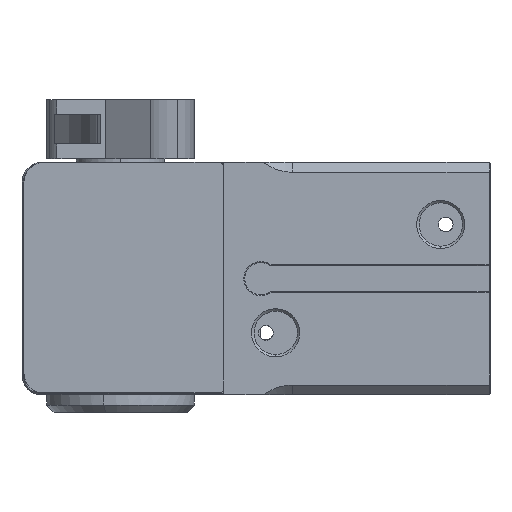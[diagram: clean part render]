
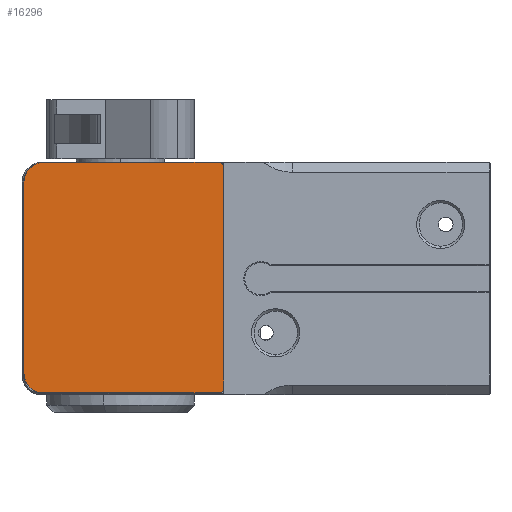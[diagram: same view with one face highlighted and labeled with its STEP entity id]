
A CAD part, left-side view. The second image highlights one B-rep face of the part: STEP entity #16296.
In plain terms, the highlighted planar face has unit normal (-1, 0, 0).
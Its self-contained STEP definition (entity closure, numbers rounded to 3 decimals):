
#70 = DIRECTION ( 'NONE',  ( 0., -1., 0. ) ) ;
#99 = VERTEX_POINT ( 'NONE', #6721 ) ;
#158 = DIRECTION ( 'NONE',  ( 0., 0., -1. ) ) ;
#190 = FACE_OUTER_BOUND ( 'NONE', #15492, .T. ) ;
#541 = CIRCLE ( 'NONE', #3525, 1. ) ;
#618 = ORIENTED_EDGE ( 'NONE', *, *, #4204, .T. ) ;
#679 = DIRECTION ( 'NONE',  ( -1., 0., 0. ) ) ;
#840 = CIRCLE ( 'NONE', #6783, 4. ) ;
#1332 = ORIENTED_EDGE ( 'NONE', *, *, #10070, .T. ) ;
#1487 = CARTESIAN_POINT ( 'NONE',  ( -32.5, 54., 1.4 ) ) ;
#1734 = LINE ( 'NONE', #13222, #4136 ) ;
#1948 = AXIS2_PLACEMENT_3D ( 'NONE', #12597, #8868, #3964 ) ;
#2111 = CARTESIAN_POINT ( 'NONE',  ( -32.5, 90.6, 4.4 ) ) ;
#2130 = CARTESIAN_POINT ( 'NONE',  ( -32.5, 90.6, 47.2 ) ) ;
#2860 = CARTESIAN_POINT ( 'NONE',  ( -32.5, 55., 46.2 ) ) ;
#2877 = ORIENTED_EDGE ( 'NONE', *, *, #8308, .T. ) ;
#3128 = DIRECTION ( 'NONE',  ( 0., 0., -1. ) ) ;
#3386 = ORIENTED_EDGE ( 'NONE', *, *, #4359, .T. ) ;
#3525 = AXIS2_PLACEMENT_3D ( 'NONE', #2860, #8028, #3962 ) ;
#3962 = DIRECTION ( 'NONE',  ( 0., 0., -1. ) ) ;
#3964 = DIRECTION ( 'NONE',  ( 0., 0., -1. ) ) ;
#4136 = VECTOR ( 'NONE', #6722, 1000. ) ;
#4204 = EDGE_CURVE ( 'NONE', #12247, #9737, #7083, .T. ) ;
#4278 = LINE ( 'NONE', #11987, #10810 ) ;
#4288 = CARTESIAN_POINT ( 'NONE',  ( -32.5, 94.6, 0.4 ) ) ;
#4359 = EDGE_CURVE ( 'NONE', #5705, #99, #5503, .T. ) ;
#4642 = EDGE_CURVE ( 'NONE', #12015, #14836, #1734, .T. ) ;
#4669 = CIRCLE ( 'NONE', #15165, 4. ) ;
#5160 = CARTESIAN_POINT ( 'NONE',  ( -32.5, 94.6, 43.2 ) ) ;
#5360 = DIRECTION ( 'NONE',  ( 0., -1., 0. ) ) ;
#5445 = CARTESIAN_POINT ( 'NONE',  ( -32.5, 54., 0.4 ) ) ;
#5503 = LINE ( 'NONE', #4288, #11427 ) ;
#5530 = PLANE ( 'NONE',  #8861 ) ;
#5631 = CARTESIAN_POINT ( 'NONE',  ( -32.5, 54., 46.2 ) ) ;
#5705 = VERTEX_POINT ( 'NONE', #5160 ) ;
#5805 = DIRECTION ( 'NONE',  ( -1., 0., 0. ) ) ;
#6015 = VECTOR ( 'NONE', #8023, 1000. ) ;
#6721 = CARTESIAN_POINT ( 'NONE',  ( -32.5, 94.6, 4.4 ) ) ;
#6722 = DIRECTION ( 'NONE',  ( 0., 1., 0. ) ) ;
#6783 = AXIS2_PLACEMENT_3D ( 'NONE', #2111, #679, #3128 ) ;
#7083 = CIRCLE ( 'NONE', #1948, 1. ) ;
#7212 = ORIENTED_EDGE ( 'NONE', *, *, #14242, .T. ) ;
#7850 = LINE ( 'NONE', #9195, #6015 ) ;
#8023 = DIRECTION ( 'NONE',  ( 0., 0., 1. ) ) ;
#8028 = DIRECTION ( 'NONE',  ( -1., 0., 0. ) ) ;
#8213 = EDGE_CURVE ( 'NONE', #9737, #15508, #7850, .T. ) ;
#8308 = EDGE_CURVE ( 'NONE', #14836, #5705, #4669, .T. ) ;
#8433 = DIRECTION ( 'NONE',  ( 0., 0., -1. ) ) ;
#8437 = ORIENTED_EDGE ( 'NONE', *, *, #9359, .T. ) ;
#8861 = AXIS2_PLACEMENT_3D ( 'NONE', #5445, #10590, #5360 ) ;
#8868 = DIRECTION ( 'NONE',  ( -1., 0., 0. ) ) ;
#9195 = CARTESIAN_POINT ( 'NONE',  ( -32.5, 54., 0.4 ) ) ;
#9359 = EDGE_CURVE ( 'NONE', #15508, #12015, #541, .T. ) ;
#9586 = ORIENTED_EDGE ( 'NONE', *, *, #8213, .T. ) ;
#9737 = VERTEX_POINT ( 'NONE', #1487 ) ;
#10070 = EDGE_CURVE ( 'NONE', #99, #12713, #840, .T. ) ;
#10590 = DIRECTION ( 'NONE',  ( 1., 0., 0. ) ) ;
#10810 = VECTOR ( 'NONE', #70, 1000. ) ;
#11326 = CARTESIAN_POINT ( 'NONE',  ( -32.5, 55., 47.2 ) ) ;
#11427 = VECTOR ( 'NONE', #158, 1000. ) ;
#11987 = CARTESIAN_POINT ( 'NONE',  ( -32.5, 54., 0.4 ) ) ;
#12015 = VERTEX_POINT ( 'NONE', #11326 ) ;
#12247 = VERTEX_POINT ( 'NONE', #14844 ) ;
#12597 = CARTESIAN_POINT ( 'NONE',  ( -32.5, 55., 1.4 ) ) ;
#12713 = VERTEX_POINT ( 'NONE', #15055 ) ;
#13222 = CARTESIAN_POINT ( 'NONE',  ( -32.5, 54., 47.2 ) ) ;
#13653 = CARTESIAN_POINT ( 'NONE',  ( -32.5, 90.6, 43.2 ) ) ;
#14242 = EDGE_CURVE ( 'NONE', #12713, #12247, #4278, .T. ) ;
#14787 = ORIENTED_EDGE ( 'NONE', *, *, #4642, .T. ) ;
#14836 = VERTEX_POINT ( 'NONE', #2130 ) ;
#14844 = CARTESIAN_POINT ( 'NONE',  ( -32.5, 55., 0.4 ) ) ;
#15055 = CARTESIAN_POINT ( 'NONE',  ( -32.5, 90.6, 0.4 ) ) ;
#15165 = AXIS2_PLACEMENT_3D ( 'NONE', #13653, #5805, #8433 ) ;
#15492 = EDGE_LOOP ( 'NONE', ( #7212, #618, #9586, #8437, #14787, #2877, #3386, #1332 ) ) ;
#15508 = VERTEX_POINT ( 'NONE', #5631 ) ;
#16296 = ADVANCED_FACE ( 'NONE', ( #190 ), #5530, .F. ) ;
